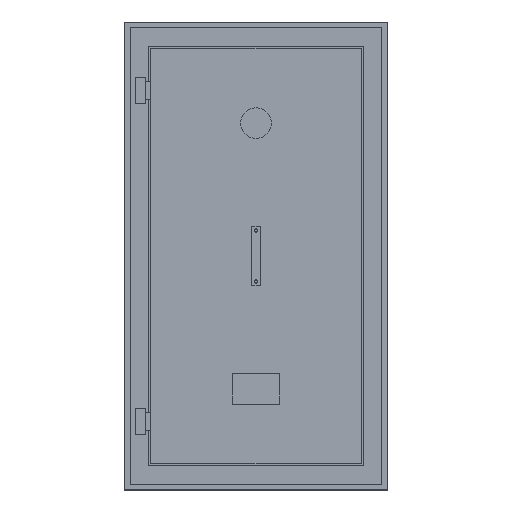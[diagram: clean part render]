
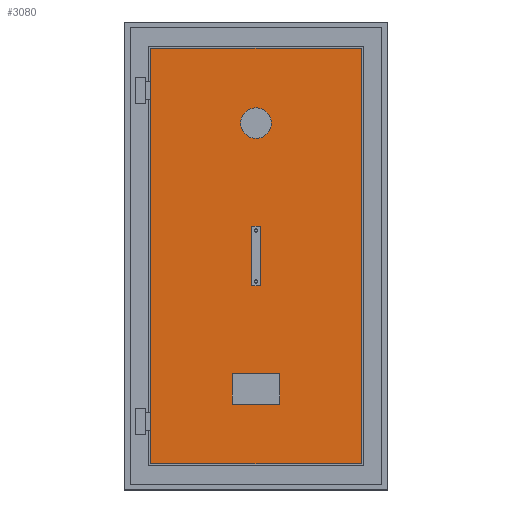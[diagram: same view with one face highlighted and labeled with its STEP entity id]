
A CAD part, top view. The second image highlights one B-rep face of the part: STEP entity #3080.
In plain terms, the highlighted planar face has unit normal (0, 0, 1).
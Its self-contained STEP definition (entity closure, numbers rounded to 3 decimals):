
#841=DIRECTION('',(0.,-1.,0.));
#842=VECTOR('',#841,2032.);
#843=CARTESIAN_POINT('',(-516.,1016.,-41.));
#844=LINE('',#843,#842);
#845=DIRECTION('',(-1.,0.,0.));
#846=VECTOR('',#845,1032.);
#847=CARTESIAN_POINT('',(516.,1016.,-41.));
#848=LINE('',#847,#846);
#849=DIRECTION('',(0.,1.,0.));
#850=VECTOR('',#849,2032.);
#851=CARTESIAN_POINT('',(516.,-1016.,-41.));
#852=LINE('',#851,#850);
#853=DIRECTION('',(1.,0.,0.));
#854=VECTOR('',#853,1032.);
#855=CARTESIAN_POINT('',(-516.,-1016.,-41.));
#856=LINE('',#855,#854);
#857=CARTESIAN_POINT('',(0.,0.,-41.));
#858=DIRECTION('',(0.,0.,1.));
#859=DIRECTION('',(1.,0.,0.));
#860=AXIS2_PLACEMENT_3D('',#857,#858,#859);
#862=CARTESIAN_POINT('',(0.,0.,-41.));
#863=DIRECTION('',(0.,0.,1.));
#864=DIRECTION('',(-1.,0.,0.));
#865=AXIS2_PLACEMENT_3D('',#862,#863,#864);
#867=CARTESIAN_POINT('',(0.,650.,-41.));
#868=DIRECTION('',(0.,0.,1.));
#869=DIRECTION('',(1.,0.,0.));
#870=AXIS2_PLACEMENT_3D('',#867,#868,#869);
#872=CARTESIAN_POINT('',(0.,650.,-41.));
#873=DIRECTION('',(0.,0.,1.));
#874=DIRECTION('',(-1.,0.,0.));
#875=AXIS2_PLACEMENT_3D('',#872,#873,#874);
#877=DIRECTION('',(0.,-1.,0.));
#878=VECTOR('',#877,150.);
#879=CARTESIAN_POINT('',(-115.,-575.,-41.));
#880=LINE('',#879,#878);
#881=DIRECTION('',(1.,0.,0.));
#882=VECTOR('',#881,230.);
#883=CARTESIAN_POINT('',(-115.,-725.,-41.));
#884=LINE('',#883,#882);
#885=DIRECTION('',(0.,1.,0.));
#886=VECTOR('',#885,150.);
#887=CARTESIAN_POINT('',(115.,-725.,-41.));
#888=LINE('',#887,#886);
#889=DIRECTION('',(-1.,0.,0.));
#890=VECTOR('',#889,230.);
#891=CARTESIAN_POINT('',(115.,-575.,-41.));
#892=LINE('',#891,#890);
#1490=CARTESIAN_POINT('',(-516.,1016.,-41.));
#1491=CARTESIAN_POINT('',(-516.,-1016.,-41.));
#1492=VERTEX_POINT('',#1490);
#1493=VERTEX_POINT('',#1491);
#1494=CARTESIAN_POINT('',(516.,-1016.,-41.));
#1495=VERTEX_POINT('',#1494);
#1496=CARTESIAN_POINT('',(516.,1016.,-41.));
#1497=VERTEX_POINT('',#1496);
#1718=CARTESIAN_POINT('',(20.,0.,-41.));
#1719=CARTESIAN_POINT('',(-20.,0.,-41.));
#1720=VERTEX_POINT('',#1718);
#1721=VERTEX_POINT('',#1719);
#1798=CARTESIAN_POINT('',(75.,650.,-41.));
#1799=CARTESIAN_POINT('',(-75.,650.,-41.));
#1800=VERTEX_POINT('',#1798);
#1801=VERTEX_POINT('',#1799);
#1810=CARTESIAN_POINT('',(-115.,-575.,-41.));
#1811=CARTESIAN_POINT('',(-115.,-725.,-41.));
#1812=VERTEX_POINT('',#1810);
#1813=VERTEX_POINT('',#1811);
#1814=CARTESIAN_POINT('',(115.,-725.,-41.));
#1815=VERTEX_POINT('',#1814);
#1816=CARTESIAN_POINT('',(115.,-575.,-41.));
#1817=VERTEX_POINT('',#1816);
#3045=CARTESIAN_POINT('',(0.,0.,-41.));
#3046=DIRECTION('',(0.,0.,1.));
#3047=DIRECTION('',(1.,0.,0.));
#3048=AXIS2_PLACEMENT_3D('',#3045,#3046,#3047);
#3049=PLANE('',#3048);
#3051=ORIENTED_EDGE('',*,*,#3050,.F.);
#3053=ORIENTED_EDGE('',*,*,#3052,.F.);
#3055=ORIENTED_EDGE('',*,*,#3054,.F.);
#3057=ORIENTED_EDGE('',*,*,#3056,.F.);
#3058=EDGE_LOOP('',(#3051,#3053,#3055,#3057));
#3059=FACE_OUTER_BOUND('',#3058,.F.);
#3060=ORIENTED_EDGE('',*,*,#2620,.T.);
#3061=ORIENTED_EDGE('',*,*,#3027,.T.);
#3062=EDGE_LOOP('',(#3060,#3061));
#3063=FACE_BOUND('',#3062,.F.);
#3065=ORIENTED_EDGE('',*,*,#3064,.T.);
#3067=ORIENTED_EDGE('',*,*,#3066,.T.);
#3068=EDGE_LOOP('',(#3065,#3067));
#3069=FACE_BOUND('',#3068,.F.);
#3071=ORIENTED_EDGE('',*,*,#3070,.T.);
#3073=ORIENTED_EDGE('',*,*,#3072,.T.);
#3075=ORIENTED_EDGE('',*,*,#3074,.T.);
#3077=ORIENTED_EDGE('',*,*,#3076,.T.);
#3078=EDGE_LOOP('',(#3071,#3073,#3075,#3077));
#3079=FACE_BOUND('',#3078,.F.);
#861=CIRCLE('',#860,20.);
#866=CIRCLE('',#865,20.);
#871=CIRCLE('',#870,75.);
#876=CIRCLE('',#875,75.);
#2620=EDGE_CURVE('',#1720,#1721,#861,.T.);
#3027=EDGE_CURVE('',#1721,#1720,#866,.T.);
#3050=EDGE_CURVE('',#1492,#1493,#844,.T.);
#3052=EDGE_CURVE('',#1497,#1492,#848,.T.);
#3054=EDGE_CURVE('',#1495,#1497,#852,.T.);
#3056=EDGE_CURVE('',#1493,#1495,#856,.T.);
#3064=EDGE_CURVE('',#1800,#1801,#871,.T.);
#3066=EDGE_CURVE('',#1801,#1800,#876,.T.);
#3070=EDGE_CURVE('',#1812,#1813,#880,.T.);
#3072=EDGE_CURVE('',#1813,#1815,#884,.T.);
#3074=EDGE_CURVE('',#1815,#1817,#888,.T.);
#3076=EDGE_CURVE('',#1817,#1812,#892,.T.);
#3080=ADVANCED_FACE('',(#3059,#3063,#3069,#3079),#3049,.T.);
